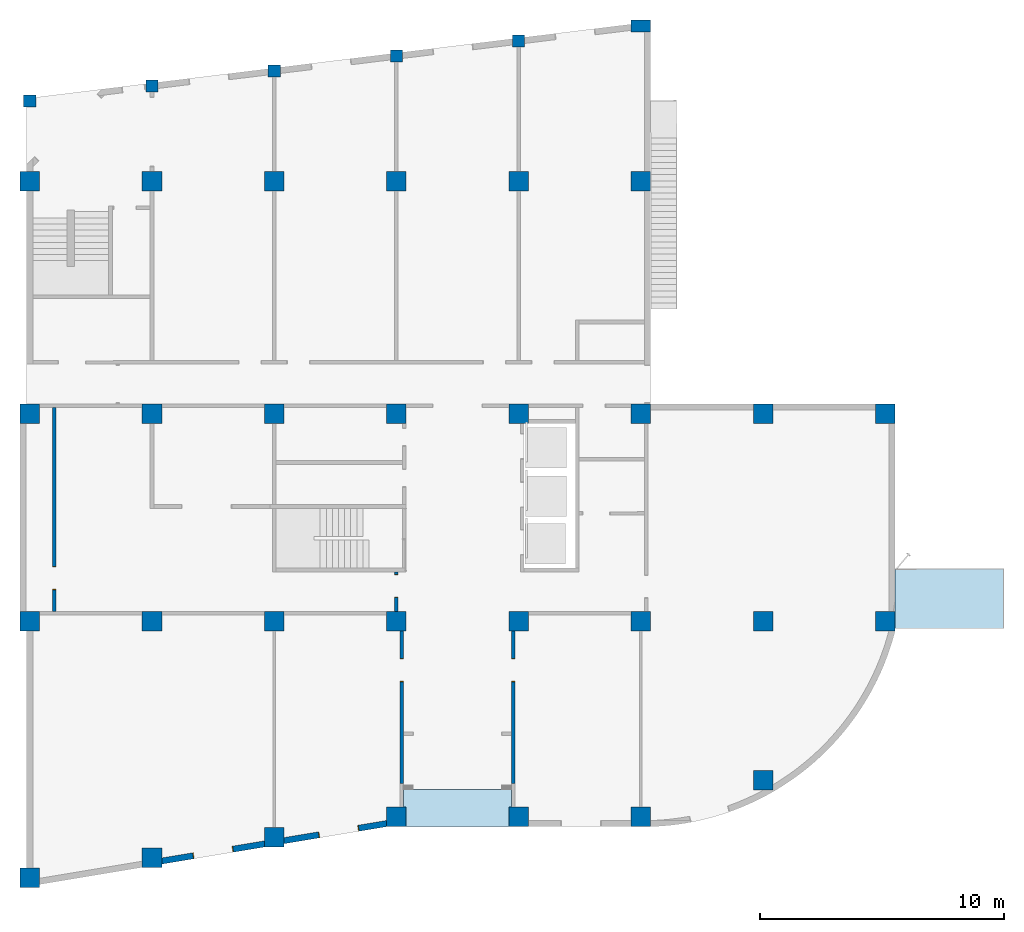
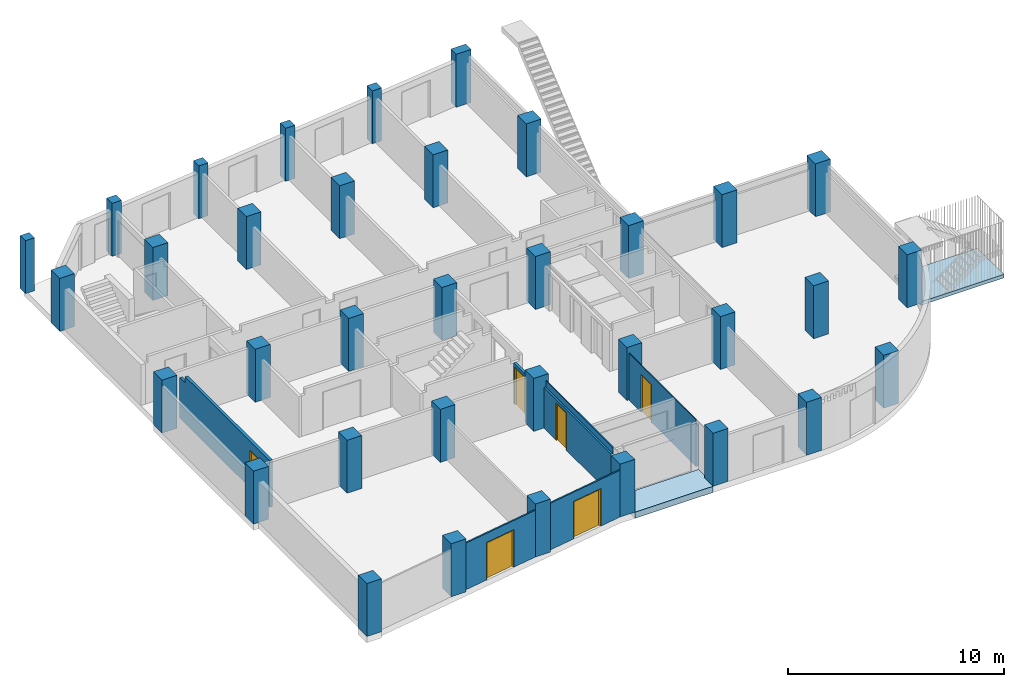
# One storey, part 1 of 9: 35 columns, 6 doors, 6 walls, 2 slabs, 6 openings.
"""IFC2X3 building model written with IfcOpenShell, lengths in millimetres."""

import ifcopenshell
import ifcopenshell.guid

model = None  # the IFC model being written
_history = None  # IfcOwnerHistory: only IFC2X3 demands one
_inside = {}  # id of a spatial element -> (the spatial element, [elements in it])
_under = {}  # id of a project, library or spatial element -> (it, [spatial elements below it])
_declared = {}  # id of a project -> (the project, [libraries it declares])
_typed = {}  # id of a type object -> (the type object, [elements of that type])
_made_of = {}  # id of a material, layer set ... -> (it, [elements and type objects made of it])


def new_model(schema):
    """Start an empty IFC model of exactly this schema.

    Asked for "IFC4X3", IfcOpenShell would pick the latest addendum, in which some entities
    have other attributes; the version numbers below select the first issue.
    IFC2X3 requires an IfcOwnerHistory on every rooted entity: one is made here for all.
    """
    global model, _history
    if schema == "IFC4X3":
        model = ifcopenshell.file(schema_version=(4, 3, 0, 0))
    else:
        model = ifcopenshell.file(schema=schema)
    _inside.clear()
    _under.clear()
    _declared.clear()
    _typed.clear()
    _made_of.clear()
    _history = None
    if model.schema == "IFC2X3":
        org = make("IfcOrganization", Name="unknown")
        user = make(
            "IfcPersonAndOrganization",
            ThePerson=make("IfcPerson", FamilyName="unknown"),
            TheOrganization=org,
        )
        app = make(
            "IfcApplication",
            ApplicationDeveloper=org,
            Version="unknown",
            ApplicationFullName="unknown",
            ApplicationIdentifier="unknown",
        )
        _history = make(
            "IfcOwnerHistory",
            OwningUser=user,
            OwningApplication=app,
            ChangeAction="ADDED",
            CreationDate=0,
        )
    return model


def make(cls, **values):
    """One entity of the class cls with the attributes given. An attribute that is None is left unset."""
    return model.create_entity(
        cls, **{name: value for name, value in values.items() if value is not None}
    )


def entity(cls, *values):
    """Any entity or typed value of the class cls, its attributes in the order of the schema. None: left unset."""
    e = model.create_entity(cls)
    for i, value in enumerate(values):
        if value is not None:
            e[i] = value
    return e


def rooted(cls, **values):
    """An entity with a GlobalId (a new one), such as an element, a storey or a relation."""
    return make(cls, GlobalId=ifcopenshell.guid.new(), OwnerHistory=_history, **values)


def si_unit(unit_type, name, prefix=None):
    """IfcSIUnit, for example si_unit("LENGTHUNIT", "METRE", prefix="MILLI")."""
    return make("IfcSIUnit", UnitType=unit_type, Prefix=prefix, Name=name)


def converted_unit(unit_type, name, factor, base, dimensions=None, offset=None):
    """IfcConversionBasedUnit, such as the inch: factor (a typed value) times the base unit."""
    return make(
        "IfcConversionBasedUnit"
        if offset is None
        else "IfcConversionBasedUnitWithOffset",
        ConversionOffset=offset,
        Dimensions=None
        if dimensions is None
        else entity("IfcDimensionalExponents", *dimensions),
        UnitType=unit_type,
        Name=name,
        ConversionFactor=make(
            "IfcMeasureWithUnit", ValueComponent=factor, UnitComponent=base
        ),
    )


def derived_unit(unit_type, elements):
    """IfcDerivedUnit: a product of units, each with its exponent."""
    return make(
        "IfcDerivedUnit",
        Elements=[
            make("IfcDerivedUnitElement", Unit=unit, Exponent=power)
            for unit, power in elements
        ],
        UnitType=unit_type,
    )


def money_unit(currency):
    """IfcMonetaryUnit."""
    return make("IfcMonetaryUnit", Currency=currency)


def assignment(units):
    """IfcUnitAssignment: the units of a project."""
    return None if units is None else make("IfcUnitAssignment", Units=units)


def point(xyz):
    """IfcCartesianPoint."""
    return None if xyz is None else make("IfcCartesianPoint", Coordinates=xyz)


def direction(xyz):
    """IfcDirection."""
    return None if xyz is None else make("IfcDirection", DirectionRatios=xyz)


def frame(location, z_axis=None, x_axis=None):
    """IfcAxis2Placement3D, a coordinate frame: its origin and axes. An axis left out is left unset."""
    return make(
        "IfcAxis2Placement3D",
        Location=point(location),
        Axis=direction(z_axis),
        RefDirection=direction(x_axis),
    )


def origin_with_axes():
    """The frame at (0, 0, 0) with the z axis (0, 0, 1) and the x axis (1, 0, 0) written out."""
    return frame((0.0, 0.0, 0.0), z_axis=(0.0, 0.0, 1.0), x_axis=(1.0, 0.0, 0.0))


def place(relative_to, where):
    """IfcLocalPlacement: puts the frame where relative to a parent placement (None: the world)."""
    return make(
        "IfcLocalPlacement", PlacementRelTo=relative_to, RelativePlacement=where
    )


def context(
    kind, dimensions, precision=None, world=None, true_north=None, identifier=None
):
    """IfcGeometricRepresentationContext, for example the 3D "Model" context."""
    return make(
        "IfcGeometricRepresentationContext",
        ContextIdentifier=identifier,
        ContextType=kind,
        CoordinateSpaceDimension=dimensions,
        Precision=precision,
        WorldCoordinateSystem=world,
        TrueNorth=true_north,
    )


def subcontext(parent, identifier, kind, view, scale=None):
    """IfcGeometricRepresentationSubContext, for example "Body" below "Model"."""
    return make(
        "IfcGeometricRepresentationSubContext",
        ContextIdentifier=identifier,
        ContextType=kind,
        ParentContext=parent,
        TargetScale=scale,
        TargetView=view,
    )


def project(units=None, contexts=None):
    """IfcProject with its units and contexts."""
    return rooted(
        "IfcProject",
        Name="project",
        RepresentationContexts=contexts,
        UnitsInContext=assignment(units),
    )


def spatial(cls, under=None, at=None, **own):
    """A site, building, storey or space (cls), placed at a placement, below another one or the project."""
    s = rooted(cls, ObjectPlacement=at, **own)
    if under is not None:
        _under.setdefault(under.id(), (under, []))[1].append(s)
    return s


def faces_of(points, faces, orient=None, outer=None):
    """IfcFace entities. A face is a list of loops; a loop is a list of indices into points, from 0.

    orient and outer hold one flag for each loop. By default every Orientation is true, the
    first loop of a face is its IfcFaceOuterBound and the others are IfcFaceBound.
    """
    made = []
    for i, loops in enumerate(faces):
        bounds = []
        for j, loop in enumerate(loops):
            is_outer = j == 0 if outer is None else outer[i][j]
            bounds.append(
                make(
                    "IfcFaceOuterBound" if is_outer else "IfcFaceBound",
                    Bound=make("IfcPolyLoop", Polygon=[points[k] for k in loop]),
                    Orientation=True if orient is None else orient[i][j],
                )
            )
        made.append(make("IfcFace", Bounds=bounds))
    return made


def open_shell(faces, orient=None, outer=None):
    """The faces of one IfcOpenShell. surface_model builds it on its shared points."""
    return ("IfcOpenShell", faces, orient, outer)


def faceted_brep(points, faces, orient=None, outer=None, voids=None):
    """IfcFacetedBrep: a solid bounded by flat faces; with voids (closed shells), ...WithVoids."""
    shared = [point(p) for p in points]
    hull = make("IfcClosedShell", CfsFaces=faces_of(shared, faces, orient, outer))
    if voids is None:
        return make("IfcFacetedBrep", Outer=hull)
    return make(
        "IfcFacetedBrepWithVoids",
        Outer=hull,
        Voids=[
            make(cls, CfsFaces=faces_of(shared, fs, o, b)) for cls, fs, o, b in voids
        ],
    )


def surface_model(cls, points, shells):
    """IfcFaceBasedSurfaceModel or IfcShellBasedSurfaceModel (cls): surfaces that need not close."""
    shared = [point(p) for p in points]
    made = [make(c, CfsFaces=faces_of(shared, fs, o, b)) for c, fs, o, b in shells]
    if cls == "IfcFaceBasedSurfaceModel":
        return make(cls, FbsmFaces=made)
    return make(cls, SbsmBoundary=made)


def shape(context_of_items, identifier, shape_type, items):
    """IfcShapeRepresentation: the items that make up one representation, for example the "Body"."""
    return make(
        "IfcShapeRepresentation",
        ContextOfItems=context_of_items,
        RepresentationIdentifier=identifier,
        RepresentationType=shape_type,
        Items=items,
    )


def source(mapping_origin, context_of_items, identifier, shape_type, items):
    """IfcRepresentationMap: a shape defined once, which mapped items show again and again."""
    return make(
        "IfcRepresentationMap",
        MappingOrigin=mapping_origin,
        MappedRepresentation=shape(context_of_items, identifier, shape_type, items),
    )


def transform(
    local_origin,
    x_axis=None,
    y_axis=None,
    z_axis=None,
    scale=None,
    scale2=None,
    scale3=None,
    uniform=True,
):
    """IfcCartesianTransformationOperator3D, or its non-uniform kind. x_axis, y_axis, z_axis: its Axis1, 2, 3."""
    if uniform:
        return make(
            "IfcCartesianTransformationOperator3D",
            Axis1=direction(x_axis),
            Axis2=direction(y_axis),
            LocalOrigin=point(local_origin),
            Scale=scale,
            Axis3=direction(z_axis),
        )
    return make(
        "IfcCartesianTransformationOperator3DnonUniform",
        Axis1=direction(x_axis),
        Axis2=direction(y_axis),
        LocalOrigin=point(local_origin),
        Scale=scale,
        Axis3=direction(z_axis),
        Scale2=scale2,
        Scale3=scale3,
    )


def mapped(mapping_source, mapping_target):
    """IfcMappedItem: shows the shape of a source again, moved by a transform."""
    return make(
        "IfcMappedItem", MappingSource=mapping_source, MappingTarget=mapping_target
    )


def material(Name=None, Category=None):
    """IfcMaterial."""
    return make("IfcMaterial", Name=Name, Category=Category)


def made_of(thing, what):
    """Note that an element or type object is made of a material, layer set ...; save() writes the relation."""
    if what is not None:
        _made_of.setdefault(what.id(), (what, []))[1].append(thing)
    return thing


def type_object(cls, material=None, **own):
    """A type object (cls), such as IfcWallType, which elements share."""
    return made_of(rooted(cls, **own), material)


def element(
    cls,
    number,
    at=None,
    inside=None,
    cuts=None,
    type_object=None,
    material=None,
    context=None,
    identifier="Body",
    shape_type=None,
    held_by="IfcProductDefinitionShape",
    body=None,
    shapes=None,
    **own,
):
    """One element of the class cls, such as IfcWall. Its Tag is "e" and its number.

    at: its placement. inside: the storey or other place that contains it. cuts: it is an
    opening in that element (IfcRelVoidsElement). A single representation is given by context,
    identifier, shape_type and body (its items); several are given by shapes. held_by: the class
    of the entity that holds the representations. save() writes the other relations.
    """
    e = rooted(cls, Tag="e%d" % number, ObjectPlacement=at, **own)
    if body is not None:
        shapes = [shape(context, identifier, shape_type, body)]
    if shapes is not None:
        e.Representation = make(held_by, Representations=shapes)
    if inside is not None:
        _inside.setdefault(inside.id(), (inside, []))[1].append(e)
    if cuts is not None:
        rooted(
            "IfcRelVoidsElement", RelatingBuildingElement=cuts, RelatedOpeningElement=e
        )
    if type_object is not None:
        _typed.setdefault(type_object.id(), (type_object, []))[1].append(e)
    return made_of(e, material)


def fill(opening, filler):
    """IfcRelFillsElement: the door or window that sits in an opening."""
    return rooted(
        "IfcRelFillsElement",
        RelatingOpeningElement=opening,
        RelatedBuildingElement=filler,
    )


def aggregate(whole, parts):
    """IfcRelAggregates: a whole, such as a stair, and the parts it consists of."""
    return rooted("IfcRelAggregates", RelatingObject=whole, RelatedObjects=parts)


def save(model, path):
    """Write the relations noted so far, then the file.

    IfcRelAggregates (storeys below a building ...), IfcRelContainedInSpatialStructure (elements
    in a storey), IfcRelDefinesByType, IfcRelAssociatesMaterial and IfcRelDeclares: one each for
    every whole, place, type object, material and project.
    """
    for whole, parts in _under.values():
        aggregate(whole, parts)
    for where, things in _inside.values():
        rooted(
            "IfcRelContainedInSpatialStructure",
            RelatedElements=things,
            RelatingStructure=where,
        )
    for kind, things in _typed.values():
        rooted("IfcRelDefinesByType", RelatedObjects=things, RelatingType=kind)
    for what, things in _made_of.values():
        rooted("IfcRelAssociatesMaterial", RelatedObjects=things, RelatingMaterial=what)
    for by, libraries in _declared.values():
        rooted("IfcRelDeclares", RelatingContext=by, RelatedDefinitions=libraries)
    model.write(path)


model = new_model("IFC2X3")

# Units and contexts
model_context = context("Model", 3, precision=0.01, world=origin_with_axes(), true_north=direction((0.0, 1.0)))
body_context = subcontext(model_context, "Body", "Model", "MODEL_VIEW")
ifc_project = project(units=[si_unit("LENGTHUNIT", "METRE", prefix="MILLI"), si_unit("AREAUNIT", "SQUARE_METRE"), si_unit("VOLUMEUNIT", "CUBIC_METRE"), converted_unit("PLANEANGLEUNIT", "DEGREE", entity("IfcPlaneAngleMeasure", 0.0174532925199), si_unit("PLANEANGLEUNIT", "RADIAN"), dimensions=[0, 0, 0, 0, 0, 0, 0]), si_unit("SOLIDANGLEUNIT", "STERADIAN"), money_unit("JPY"), converted_unit("TIMEUNIT", "Year", entity("IfcTimeMeasure", 31556926.0), si_unit("TIMEUNIT", "SECOND"), dimensions=[0, 0, 1, 0, 0, 0, 0]), si_unit("MASSUNIT", "GRAM", prefix="KILO"), si_unit("THERMODYNAMICTEMPERATUREUNIT", "DEGREE_CELSIUS"), si_unit("LUMINOUSINTENSITYUNIT", "LUMEN"), si_unit("ENERGYUNIT", "JOULE", prefix="MEGA"), derived_unit("THERMALCONDUCTANCEUNIT", [(si_unit("POWERUNIT", "WATT"), 1), (si_unit("LENGTHUNIT", "METRE"), -1), (si_unit("THERMODYNAMICTEMPERATUREUNIT", "KELVIN"), -1)]), derived_unit("SPECIFICHEATCAPACITYUNIT", [(si_unit("ENERGYUNIT", "JOULE"), 1), (si_unit("MASSUNIT", "GRAM", prefix="KILO"), -1), (si_unit("THERMODYNAMICTEMPERATUREUNIT", "KELVIN"), -1)]), derived_unit("MASSDENSITYUNIT", [(si_unit("MASSUNIT", "GRAM", prefix="KILO"), 1), (si_unit("VOLUMEUNIT", "CUBIC_METRE"), -1)])], contexts=[model_context])

# Site, building, storey
site_placement = place(None, origin_with_axes())
site = spatial("IfcSite", under=ifc_project, at=site_placement, Name="サイト", CompositionType="ELEMENT")
building_placement = place(site_placement, origin_with_axes())
building = spatial("IfcBuilding", under=site, at=building_placement, Name="建築", CompositionType="ELEMENT")
storey_placement = place(building_placement, origin_with_axes())
storey = spatial("IfcBuildingStorey", under=building, at=storey_placement, Name="1FL", CompositionType="ELEMENT", Elevation=0.0)

# Columns
ifc_material = material(Name="コンクリート")
column_type_1 = type_object("IfcColumnType", Name="コンクリート 800 x 800", PredefinedType="NOTDEFINED")
for number, where, z_axis, x_axis, name in (
    (1, (0.0, 0.0, 0.0), (0.0, 0.0, 1.0), (1.0, 0.0, 0.0), "C1"),
    (2, (5000.0, 0.0, 0.0), (0.0, 0.0, 1.0), (1.0, 0.0, 0.0), "C1"),
    (3, (10000.0, 0.0, 0.0), (0.0, 0.0, 1.0), (1.0, 0.0, 0.0), "C1"),
    (4, (15000.0, 0.0, 0.0), (0.0, 0.0, 1.0), (1.0, 0.0, 0.0), "C1"),
    (5, (20000.0, 0.0, 0.0), (0.0, 0.0, 1.0), (1.0, 0.0, 0.0), "C1"),
    (6, (25000.0, 0.0, 0.0), (0.0, 0.0, 1.0), (1.0, 0.0, 0.0), "C1"),
    (7, (30000.0, 0.0, 0.0), (0.0, 0.0, 1.0), (1.0, 0.0, 0.0), "C1"),
    (8, (35000.0, 0.0, 0.0), (0.0, 0.0, 1.0), (1.0, 0.0, 0.0), "C1"),
    (9, (35000.0, 8500.0, 0.0), (0.0, 0.0, 1.0), (1.0, 0.0, 0.0), "C1"),
    (10, (30000.0, 8500.0, 0.0), (0.0, 0.0, 1.0), (1.0, 0.0, 0.0), "C1"),
    (11, (25000.0, 8500.0, 0.0), (0.0, 0.0, 1.0), (1.0, 0.0, 0.0), "C1"),
    (12, (20000.0, 8500.0, 0.0), (0.0, 0.0, 1.0), (1.0, 0.0, 0.0), "C1"),
    (13, (15000.0, 8500.0, 0.0), (0.0, 0.0, 1.0), (1.0, 0.0, 0.0), "C1"),
    (14, (10000.0, 8500.0, 0.0), (0.0, 0.0, 1.0), (1.0, 0.0, 0.0), "C1"),
    (15, (5000.0, 8500.0, 0.0), (0.0, 0.0, 1.0), (1.0, 0.0, 0.0), "C1"),
    (16, (0.0, 8500.0, 0.0), (0.0, 0.0, 1.0), (1.0, 0.0, 0.0), "C1"),
    (17, (0.0, -10500.0, 0.0), (0.0, 0.0, 1.0), (1.0, 0.0, 0.0), "C1"),
    (18, (5000.0, -9666.66666667, 0.0), (0.0, 0.0, 1.0), (1.0, 0.0, 0.0), "C1"),
    (19, (10000.0, -8833.33333333, 0.0), (0.0, 0.0, 1.0), (1.0, 0.0, 0.0), "C1"),
    (20, (15000.0, -8000.0, 0.0), (0.0, 0.0, 1.0), (1.0, 0.0, 0.0), "C1"),
    (21, (20000.0, -8000.0, 0.0), (0.0, 0.0, 1.0), (1.0, 0.0, 0.0), "C1"),
    (22, (25000.0, -8000.0, 0.0), (0.0, 0.0, 1.0), (1.0, 0.0, 0.0), "C1"),
    (23, (25000.0, 18000.0, 0.0), (0.0, 0.0, 1.0), (1.0, 0.0, 0.0), "C1"),
    (24, (20000.0, 18000.0, 0.0), (0.0, 0.0, 1.0), (1.0, 0.0, 0.0), "C1"),
    (25, (15000.0, 18000.0, 0.0), (0.0, 0.0, 1.0), (1.0, 0.0, 0.0), "C1"),
    (26, (10000.0, 18000.0, 0.0), (0.0, 0.0, 1.0), (1.0, 0.0, 0.0), "C1"),
    (27, (5000.0, 18000.0, 0.0), (0.0, 0.0, 1.0), (1.0, 0.0, 0.0), "C1"),
    (28, (0.0, 18000.0, 0.0), (0.0, 0.0, 1.0), (1.0, 0.0, 0.0), "C1"),
    (29, (30000.0, -6500.0, 0.0), (0.0, 0.0, 1.0), (1.0, 0.0, 0.0), "C1"),
):
    element("IfcColumn", number, at=place(storey_placement, frame(where, z_axis=z_axis, x_axis=x_axis)), inside=storey, type_object=column_type_1, material=ifc_material, Name=name, context=body_context, shape_type="Brep", body=[
        faceted_brep([(-400.0, -400.0, 3000.0), (-400.0, -400.0, 0.0), (400.0, -400.0, 0.0), (400.0, -400.0, 3000.0), (-400.0, 400.0, 3000.0), (-400.0, 400.0, 0.0), (400.0, 400.0, 0.0), (400.0, 400.0, 3000.0)], [[[0, 1, 2, 3]], [[4, 5, 1, 0]], [[2, 1, 5, 6]], [[3, 2, 6, 7]], [[4, 0, 3, 7]], [[7, 6, 5, 4]]]),
    ])
column_type_2 = type_object("IfcColumnType", Name="コンクリート 800 x 500", PredefinedType="NOTDEFINED")
column_placement = place(storey_placement, frame((25000.0, 24352.6436992, 0.0), z_axis=(0.0, 0.0, 1.0), x_axis=(1.0, 0.0, 0.0)))
element("IfcColumn", 30, at=column_placement, inside=storey, type_object=column_type_2, material=ifc_material, Name="C3", context=body_context, shape_type="Brep", body=[
    faceted_brep([(-400.0, -250.0, 3000.0), (-400.0, -250.0, 0.0), (400.0, -250.0, 0.0), (400.0, -250.0, 3000.0), (-400.0, 250.0, 3000.0), (-400.0, 250.0, 0.0), (400.0, 250.0, 0.0), (400.0, 250.0, 3000.0)], [[[0, 1, 2, 3]], [[4, 5, 1, 0]], [[2, 1, 5, 6]], [[3, 2, 6, 7]], [[4, 0, 3, 7]], [[7, 6, 5, 4]]]),
])
column_type_3 = type_object("IfcColumnType", Name="コンクリート 500 x 500", PredefinedType="NOTDEFINED")
for number, where, z_axis, x_axis, name in (
    (31, (20000.0, 23738.7208947, 0.0), (0.0, 0.0, 1.0), (1.0, 0.0, 0.0), "C2"),
    (32, (15000.0, 23124.7980902, 0.0), (0.0, 0.0, 1.0), (1.0, 0.0, 0.0), "C2"),
    (33, (10000.0, 22510.8752856, 0.0), (0.0, 0.0, 1.0), (1.0, 0.0, 0.0), "C2"),
    (34, (5000.0, 21896.9524811, 0.0), (0.0, 0.0, 1.0), (1.0, 0.0, 0.0), "C2"),
    (35, (0.0, 21283.0296766, 0.0), (0.0, 0.0, 1.0), (1.0, 0.0, 0.0), "C2"),
):
    element("IfcColumn", number, at=place(storey_placement, frame(where, z_axis=z_axis, x_axis=x_axis)), inside=storey, type_object=column_type_3, material=ifc_material, Name=name, context=body_context, shape_type="Brep", body=[
        faceted_brep([(-250.0, -250.0, 3000.0), (-250.0, -250.0, 0.0), (250.0, -250.0, 0.0), (250.0, -250.0, 3000.0), (-250.0, 250.0, 3000.0), (-250.0, 250.0, 0.0), (250.0, 250.0, 0.0), (250.0, 250.0, 3000.0)], [[[0, 1, 2, 3]], [[4, 5, 1, 0]], [[2, 1, 5, 6]], [[3, 2, 6, 7]], [[4, 0, 3, 7]], [[7, 6, 5, 4]]]),
    ])

# Slabs
slab_type_1 = type_object("IfcSlabType", Name="コンクリート 350", PredefinedType="FLOOR")
slab_1_placement = place(storey_placement, frame((15299.9999475, -6875.0, 0.0), z_axis=(0.0, 0.0, 1.0), x_axis=(1.0, 0.0, 0.0)))
element("IfcSlab", 36, at=slab_1_placement, inside=storey, type_object=slab_type_1, material=ifc_material, Name="S3", PredefinedType="FLOOR", context=body_context, shape_type="Brep", body=[
    faceted_brep([(-2.75485803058e-05, -724.999969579, 0.0), (0.0, 0.0, 0.0), (0.0, 0.0, -350.0), (-2.75485803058e-05, -724.999969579, -350.0), (4400.00012973, -725.000006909, 0.0), (4400.0001044, 0.0, 0.0), (100.000052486, -725.0, 0.0), (100.000052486, -1525.0, 0.0), (4300.00005249, -1525.0, 0.0), (4300.00005249, -725.0, 0.0), (4400.0001044, 0.0, -350.0), (100.000052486, -725.0, -350.0), (4400.00012973, -725.000006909, -350.0), (4300.00005249, -725.0, -350.0), (4300.00005249, -1525.0, -350.0), (100.000052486, -1525.0, -350.0)], [[[0, 1, 2, 3]], [[4, 5, 1, 0, 6, 7, 8, 9]], [[1, 5, 10, 2]], [[11, 3, 2, 10, 12, 13, 14, 15]], [[6, 0, 3, 11]], [[5, 4, 12, 10]], [[7, 6, 11, 15]], [[8, 7, 15, 14]], [[9, 8, 14, 13]], [[4, 9, 13, 12]]]),
])
slab_type_2 = type_object("IfcSlabType", Name="コンクリート 200", PredefinedType="FLOOR")
slab_2_placement = place(storey_placement, frame((35399.9999654, -300.0, 0.0), z_axis=(0.0, 0.0, 1.0), x_axis=(1.0, 0.0, 0.0)))
element("IfcSlab", 37, at=slab_2_placement, inside=storey, type_object=slab_type_2, material=ifc_material, Name="S3", PredefinedType="FLOOR", context=body_context, shape_type="Brep", body=[
    faceted_brep([(4450.00001125, 0.0, 0.0), (0.0, 0.0, 0.0), (0.0, 0.0, -200.0), (4450.00001125, 0.0, -200.0), (4450.00001125, 2453.66927384, 0.0), (0.0, 2453.66927384, 0.0), (0.0, 2453.66927384, -200.0), (4450.00001125, 2453.66927384, -200.0)], [[[0, 1, 2, 3]], [[4, 5, 1, 0]], [[1, 5, 6, 2]], [[7, 3, 2, 6]], [[4, 0, 3, 7]], [[5, 4, 7, 6]]]),
])

# Wall, opening, door
wall_type_1 = type_object("IfcWallType", Name="コンクリート 150", PredefinedType="NOTDEFINED")
wall_1_placement = place(storey_placement, frame((15224.9999475, 324.999998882, 0.0), z_axis=(0.0, 0.0, 1.0), x_axis=(0.0, -1.0, 0.0)))
wall_1 = element("IfcWall", 38, at=wall_1_placement, inside=storey, type_object=wall_type_1, material=ifc_material, Name="W4", context=body_context, shape_type="Brep", body=[
    faceted_brep([(2805.00004232, 75.0, 0.0), (2805.00004232, 75.0, 2130.0), (1845.00004232, 75.0, 2130.0), (1845.00004232, 75.0, 0.0), (724.999998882, 75.0, 0.0), (724.999998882, 75.0, 2650.0), (1199.99999888, 75.0, 2650.0), (4849.99999888, 75.0, 2650.0), (6949.99999888, 75.0, 2650.0), (6949.99999888, 75.0, 0.0), (2805.00004232, -75.0, 0.0), (2805.00004232, -75.0, 2130.0), (1845.00004232, -75.0, 2130.0), (1845.00004232, -75.0, 0.0), (724.999998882, -75.0, 0.0), (724.999998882, -75.0, 2300.0), (724.999998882, 25.0000524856, 2300.0), (724.999998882, 25.0000524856, 2650.0), (6949.99999888, 25.0000524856, 2650.0), (6949.99999888, -75.0, 2300.0), (6949.99999888, -75.0, 0.0), (6949.99999888, 25.0000524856, 2300.0)], [[[0, 1, 2, 3, 4, 5, 6, 7, 8, 9]], [[1, 0, 10, 11]], [[2, 1, 11, 12]], [[3, 2, 12, 13]], [[3, 13, 14, 4]], [[4, 14, 15, 16, 17, 5]], [[18, 8, 7, 6, 5, 17]], [[19, 20, 9, 8, 18, 21]], [[10, 0, 9, 20]], [[11, 10, 20, 19, 15, 14, 13, 12]], [[16, 15, 19, 21]], [[17, 16, 21, 18]]]),
])
opening_1_placement = place(wall_1_placement, frame((2325.00004232, 0.0, 0.0), z_axis=(0.0, 0.0, 1.0), x_axis=(1.0, 0.0, 0.0)))
opening_1 = element("IfcOpeningElement", 39, at=opening_1_placement, cuts=wall_1, Name="SD3", context=body_context, shape_type="Brep", body=[
    faceted_brep([(480.0, 160.0, 0.0), (480.0, 160.0, 2130.0), (480.0, -160.0, 2130.0), (480.0, -160.0, 0.0), (-480.0, 160.0, 0.0), (-480.0, 160.0, 2130.0), (-480.0, -160.0, 2130.0), (-480.0, -160.0, 0.0)], [[[0, 1, 2, 3]], [[0, 4, 5, 1]], [[1, 5, 6, 2]], [[3, 2, 6, 7]], [[4, 0, 3, 7]], [[5, 4, 7, 6]]]),
])
door_style_1 = type_object("IfcDoorStyle", Name="片開き戸", ConstructionType="NOTDEFINED", OperationType="NOTDEFINED", ParameterTakesPrecedence=False, Sizeable=False)
shared_shape_1 = source(origin_with_axes(), body_context, "Body", "SurfaceModel", [
    surface_model("IfcShellBasedSurfaceModel", [(450.0, -85.0, 0.0), (-450.0, -85.0, 0.0), (-450.0, -85.0, 2100.0), (450.0, -85.0, 2100.0)], [open_shell([[[0, 1, 2, 3]]])]),
    surface_model("IfcShellBasedSurfaceModel", [(480.0, -10.0, 0.0), (450.0, -10.0, 0.0), (450.0, -10.0, 2100.0), (-450.0, -10.0, 2100.0), (-450.0, -10.0, 0.0), (-480.0, -10.0, 0.0), (-480.0, -10.0, 2130.0), (480.0, -10.0, 2130.0)], [open_shell([[[0, 1, 2, 3, 4, 5, 6, 7]]])]),
    surface_model("IfcShellBasedSurfaceModel", [(480.0, -160.0, 0.0), (450.0, -160.0, 0.0), (450.0, -160.0, 2100.0), (-450.0, -160.0, 2100.0), (-450.0, -160.0, 0.0), (-480.0, -160.0, 0.0), (-480.0, -160.0, 2130.0), (480.0, -160.0, 2130.0)], [open_shell([[[0, 1, 2, 3, 4, 5, 6, 7]]])]),
    surface_model("IfcShellBasedSurfaceModel", [(450.0, -10.0, 0.0), (450.0, -160.0, 0.0), (450.0, -160.0, 2100.0), (450.0, -10.0, 2100.0), (480.0, -10.0, 0.0), (480.0, -160.0, 0.0), (-450.0, -160.0, 2100.0), (-450.0, -10.0, 2100.0), (480.0, -10.0, 2130.0), (480.0, -160.0, 2130.0), (-450.0, -160.0, 0.0), (-450.0, -10.0, 0.0), (-480.0, -10.0, 2130.0), (-480.0, -160.0, 2130.0), (-480.0, -160.0, 0.0), (-480.0, -10.0, 0.0)], [open_shell([[[0, 1, 2, 3]], [[4, 5, 1, 0]], [[3, 2, 6, 7]], [[8, 9, 5, 4]], [[7, 6, 10, 11]], [[12, 13, 9, 8]], [[11, 10, 14, 15]], [[15, 14, 13, 12]]])]),
])
door_1_placement = place(opening_1_placement, frame((-450.0, 0.0, 0.0), z_axis=(0.0, 0.0, 1.0), x_axis=(1.0, 0.0, 0.0)))
door_1 = element("IfcDoor", 40, at=door_1_placement, inside=storey, type_object=door_style_1, Name="SD3", OverallHeight=2165.0, OverallWidth=1030.0, context=body_context, shape_type="MappedRepresentation", body=[
    mapped(shared_shape_1, transform((450.0, 85.0, 0.0))),
])
fill(opening_1, door_1)

wall_2_placement = place(storey_placement, frame((19775.0000519, 325.000021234, 0.0), z_axis=(0.0, 0.0, 1.0), x_axis=(0.0, -1.0, 0.0)))
wall_2 = element("IfcWall", 41, at=wall_2_placement, inside=storey, type_object=wall_type_1, material=ifc_material, Name="W5", context=body_context, shape_type="Brep", body=[
    faceted_brep([(2805.00006467, 75.0, 0.0), (2805.00006467, 75.0, 2130.0), (1845.00006467, 75.0, 2130.0), (1845.00006467, 75.0, 0.0), (725.000021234, 75.0, 0.0), (725.000021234, 75.0, 2300.0), (6950.00002123, 75.0, 2300.0), (6950.00002123, 75.0, 0.0), (2805.00006467, -75.0, 0.0), (2805.00006467, -75.0, 2130.0), (1845.00006467, -75.0, 2130.0), (1845.00006467, -75.0, 0.0), (725.000021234, -75.0, 0.0), (725.000021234, -75.0, 2650.0), (725.000021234, -25.0000519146, 2650.0), (725.000021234, -25.0000519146, 2300.0), (6950.00002123, -25.0000519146, 2300.0), (6950.00002123, -25.0000519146, 2650.0), (6950.00002123, -75.0, 2650.0), (6950.00002123, -75.0, 0.0), (4850.00002123, -75.0, 2650.0), (1200.00002123, -75.0, 2650.0)], [[[0, 1, 2, 3, 4, 5, 6, 7]], [[1, 0, 8, 9]], [[2, 1, 9, 10]], [[3, 2, 10, 11]], [[3, 11, 12, 4]], [[4, 12, 13, 14, 15, 5]], [[5, 15, 16, 6]], [[17, 18, 19, 7, 6, 16]], [[8, 0, 7, 19]], [[9, 8, 19, 18, 20, 21, 13, 12, 11, 10]], [[21, 20, 18, 17, 14, 13]], [[15, 14, 17, 16]]]),
])
opening_2_placement = place(wall_2_placement, frame((2325.00006467, 0.0, 0.0), z_axis=(0.0, 0.0, 1.0), x_axis=(1.0, 0.0, 0.0)))
opening_2 = element("IfcOpeningElement", 42, at=opening_2_placement, cuts=wall_2, Name="SD3", context=body_context, shape_type="Brep", body=[
    faceted_brep([(480.0, 160.0, 0.0), (480.0, 160.0, 2130.0), (480.0, -160.0, 2130.0), (480.0, -160.0, 0.0), (-480.0, 160.0, 0.0), (-480.0, 160.0, 2130.0), (-480.0, -160.0, 2130.0), (-480.0, -160.0, 0.0)], [[[0, 1, 2, 3]], [[0, 4, 5, 1]], [[1, 5, 6, 2]], [[3, 2, 6, 7]], [[4, 0, 3, 7]], [[5, 4, 7, 6]]]),
])
shared_shape_2 = source(origin_with_axes(), body_context, "Body", "SurfaceModel", [
    surface_model("IfcShellBasedSurfaceModel", [(-450.0, 85.0, 0.0), (-450.0, 85.0, 2100.0), (450.0, 85.0, 2100.0), (450.0, 85.0, 0.0)], [open_shell([[[0, 1, 2, 3]]])]),
    surface_model("IfcShellBasedSurfaceModel", [(-480.0, 160.0, 0.0), (-480.0, 160.0, 2130.0), (480.0, 160.0, 2130.0), (480.0, 160.0, 0.0), (450.0, 160.0, 0.0), (450.0, 160.0, 2100.0), (-450.0, 160.0, 2100.0), (-450.0, 160.0, 0.0)], [open_shell([[[0, 1, 2, 3, 4, 5, 6, 7]]])]),
    surface_model("IfcShellBasedSurfaceModel", [(-480.0, 10.0, 0.0), (-480.0, 10.0, 2130.0), (480.0, 10.0, 2130.0), (480.0, 10.0, 0.0), (450.0, 10.0, 0.0), (450.0, 10.0, 2100.0), (-450.0, 10.0, 2100.0), (-450.0, 10.0, 0.0)], [open_shell([[[0, 1, 2, 3, 4, 5, 6, 7]]])]),
    surface_model("IfcShellBasedSurfaceModel", [(-450.0, 160.0, 0.0), (-450.0, 160.0, 2100.0), (-450.0, 10.0, 2100.0), (-450.0, 10.0, 0.0), (450.0, 160.0, 2100.0), (450.0, 10.0, 2100.0), (-480.0, 160.0, 0.0), (-480.0, 10.0, 0.0), (450.0, 160.0, 0.0), (450.0, 10.0, 0.0), (-480.0, 160.0, 2130.0), (-480.0, 10.0, 2130.0), (480.0, 160.0, 0.0), (480.0, 10.0, 0.0), (480.0, 160.0, 2130.0), (480.0, 10.0, 2130.0)], [open_shell([[[0, 1, 2, 3]], [[1, 4, 5, 2]], [[6, 0, 3, 7]], [[4, 8, 9, 5]], [[10, 6, 7, 11]], [[8, 12, 13, 9]], [[14, 10, 11, 15]], [[12, 14, 15, 13]]])]),
])
door_2_placement = place(opening_2_placement, frame((450.0, 0.0, 0.0), z_axis=(0.0, 0.0, 1.0), x_axis=(-1.0, 0.0, 0.0)))
door_2 = element("IfcDoor", 43, at=door_2_placement, inside=storey, type_object=door_style_1, Name="SD3", OverallHeight=2165.0, OverallWidth=1030.0, context=body_context, shape_type="MappedRepresentation", body=[
    mapped(shared_shape_2, transform((450.0, -85.0, 0.0))),
])
fill(opening_2, door_2)

wall_3_placement = place(storey_placement, frame((15000.0, 324.999998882, 0.0), z_axis=(0.0, 0.0, 1.0), x_axis=(0.0, 1.0, 0.0)))
wall_3 = element("IfcWall", 44, at=wall_3_placement, inside=storey, type_object=wall_type_1, material=ifc_material, Name="W4", context=body_context, shape_type="Brep", body=[
    faceted_brep([(640.000001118, -75.0, 0.0), (640.000001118, -75.0, 2130.0), (1600.00000112, -75.0, 2130.0), (1600.00000112, -75.0, 0.0), (1700.00000112, -75.0, 0.0), (1700.00000112, -75.0, 2300.0), (75.0, -75.0, 2300.0), (75.0, -75.0, 0.0), (640.000001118, 75.0, 0.0), (640.000001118, 75.0, 2130.0), (1600.00000112, 75.0, 2130.0), (1600.00000112, 75.0, 0.0), (1700.00000112, 75.0, 0.0), (1700.00000112, 75.0, 2300.0), (75.0, 75.0, 2300.0), (75.0, 75.0, 0.0)], [[[0, 1, 2, 3, 4, 5, 6, 7]], [[1, 0, 8, 9]], [[2, 1, 9, 10]], [[3, 2, 10, 11]], [[3, 11, 12, 4]], [[12, 13, 5, 4]], [[14, 6, 5, 13]], [[7, 6, 14, 15]], [[8, 0, 7, 15]], [[9, 8, 15, 14, 13, 12, 11, 10]]]),
])
opening_3_placement = place(wall_3_placement, frame((1120.00000112, 0.0, 0.0), z_axis=(0.0, 0.0, 1.0), x_axis=(1.0, 0.0, 0.0)))
opening_3 = element("IfcOpeningElement", 45, at=opening_3_placement, cuts=wall_3, Name="SD3", context=body_context, shape_type="Brep", body=[
    faceted_brep([(-480.0, -160.0, 0.0), (-480.0, -160.0, 2130.0), (-480.0, 160.0, 2130.0), (-480.0, 160.0, 0.0), (480.0, -160.0, 0.0), (480.0, -160.0, 2130.0), (480.0, 160.0, 2130.0), (480.0, 160.0, 0.0)], [[[0, 1, 2, 3]], [[0, 4, 5, 1]], [[1, 5, 6, 2]], [[3, 2, 6, 7]], [[4, 0, 3, 7]], [[5, 4, 7, 6]]]),
])
shared_shape_3 = source(origin_with_axes(), body_context, "Body", "SurfaceModel", [
    surface_model("IfcShellBasedSurfaceModel", [(-450.0, -85.0, 0.0), (-450.0, -85.0, 2100.0), (450.0, -85.0, 2100.0), (450.0, -85.0, 0.0)], [open_shell([[[0, 1, 2, 3]]])]),
    surface_model("IfcShellBasedSurfaceModel", [(-480.0, -10.0, 0.0), (-480.0, -10.0, 2130.0), (480.0, -10.0, 2130.0), (480.0, -10.0, 0.0), (450.0, -10.0, 0.0), (450.0, -10.0, 2100.0), (-450.0, -10.0, 2100.0), (-450.0, -10.0, 0.0)], [open_shell([[[0, 1, 2, 3, 4, 5, 6, 7]]])]),
    surface_model("IfcShellBasedSurfaceModel", [(-480.0, -160.0, 0.0), (-480.0, -160.0, 2130.0), (480.0, -160.0, 2130.0), (480.0, -160.0, 0.0), (450.0, -160.0, 0.0), (450.0, -160.0, 2100.0), (-450.0, -160.0, 2100.0), (-450.0, -160.0, 0.0)], [open_shell([[[0, 1, 2, 3, 4, 5, 6, 7]]])]),
    surface_model("IfcShellBasedSurfaceModel", [(-450.0, -10.0, 0.0), (-450.0, -10.0, 2100.0), (-450.0, -160.0, 2100.0), (-450.0, -160.0, 0.0), (450.0, -10.0, 2100.0), (450.0, -160.0, 2100.0), (-480.0, -10.0, 0.0), (-480.0, -160.0, 0.0), (450.0, -10.0, 0.0), (450.0, -160.0, 0.0), (-480.0, -10.0, 2130.0), (-480.0, -160.0, 2130.0), (480.0, -10.0, 0.0), (480.0, -160.0, 0.0), (480.0, -10.0, 2130.0), (480.0, -160.0, 2130.0)], [open_shell([[[0, 1, 2, 3]], [[1, 4, 5, 2]], [[6, 0, 3, 7]], [[4, 8, 9, 5]], [[10, 6, 7, 11]], [[8, 12, 13, 9]], [[14, 10, 11, 15]], [[12, 14, 15, 13]]])]),
])
door_3_placement = place(opening_3_placement, frame((-450.0, 0.0, 0.0), z_axis=(0.0, 0.0, 1.0), x_axis=(1.0, 0.0, 0.0)))
door_3 = element("IfcDoor", 46, at=door_3_placement, inside=storey, type_object=door_style_1, Name="SD3", OverallHeight=2165.0, OverallWidth=1030.0, context=body_context, shape_type="MappedRepresentation", body=[
    mapped(shared_shape_3, transform((450.0, 85.0, 0.0))),
])
fill(opening_3, door_3)

wall_4_placement = place(storey_placement, frame((1000.0, 8825.000045, 0.0), z_axis=(0.0, 0.0, 1.0), x_axis=(0.0, -1.0, 0.0)))
wall_4 = element("IfcWall", 47, at=wall_4_placement, inside=storey, type_object=wall_type_1, material=ifc_material, Name="W0", context=body_context, shape_type="Brep", body=[
    faceted_brep([(7540.00004612, 75.0, 0.0), (7540.00004612, 75.0, 2130.0), (6580.00004612, 75.0, 2130.0), (6580.00004612, 75.0, 0.0), (75.0, 75.0, 0.0), (75.000044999, 75.0, 2300.0), (575.000044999, 75.0, 2300.0), (575.000044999, 75.0, 2650.0), (8425.00004612, 75.0, 2650.0), (8425.00004612, 75.0, 0.0), (7540.00004612, -75.0, 0.0), (7540.00004612, -75.0, 2130.0), (6580.00004612, -75.0, 2130.0), (6580.00004612, -75.0, 0.0), (75.0, -75.0, 0.0), (75.000044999, -75.0, 2300.0), (575.000044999, -75.0, 2300.0), (575.000044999, -75.0, 2650.0), (8425.00004612, -75.0, 2650.0), (8425.00004612, -75.0, 0.0)], [[[0, 1, 2, 3, 4, 5, 6, 7, 8, 9]], [[1, 0, 10, 11]], [[2, 1, 11, 12]], [[3, 2, 12, 13]], [[3, 13, 14, 4]], [[15, 5, 4, 14]], [[6, 5, 15, 16]], [[17, 7, 6, 16]], [[7, 17, 18, 8]], [[9, 8, 18, 19]], [[10, 0, 9, 19]], [[11, 10, 19, 18, 17, 16, 15, 14, 13, 12]]]),
])
opening_4_placement = place(wall_4_placement, frame((7060.00004612, 0.0, 0.0), z_axis=(0.0, 0.0, 1.0), x_axis=(1.0, 0.0, 0.0)))
opening_4 = element("IfcOpeningElement", 48, at=opening_4_placement, cuts=wall_4, Name="SD3", context=body_context, shape_type="Brep", body=[
    faceted_brep([(-480.0, -160.0, 0.0), (-480.0, -160.0, 2130.0), (-480.0, 160.0, 2130.0), (-480.0, 160.0, 0.0), (480.0, -160.0, 0.0), (480.0, -160.0, 2130.0), (480.0, 160.0, 2130.0), (480.0, 160.0, 0.0)], [[[0, 1, 2, 3]], [[0, 4, 5, 1]], [[1, 5, 6, 2]], [[3, 2, 6, 7]], [[4, 0, 3, 7]], [[5, 4, 7, 6]]]),
])
door_4_placement = place(opening_4_placement, frame((-450.0, 0.0, 0.0), z_axis=(0.0, 0.0, 1.0), x_axis=(1.0, 0.0, 0.0)))
door_4 = element("IfcDoor", 49, at=door_4_placement, inside=storey, type_object=door_style_1, Name="SD3", OverallHeight=2165.0, OverallWidth=1030.0, context=body_context, shape_type="MappedRepresentation", body=[
    mapped(shared_shape_3, transform((450.0, 85.0, 0.0))),
])
fill(opening_4, door_4)

wall_type_2 = type_object("IfcWallType", Name="コンクリート 250", PredefinedType="NOTDEFINED")
wall_5_placement = place(storey_placement, frame((5000.0, -9873.27578094, 0.0), z_axis=(0.0, 0.0, 1.0), x_axis=(0.986393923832, 0.164398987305, 0.0)))
wall_5 = element("IfcWall", 50, at=wall_5_placement, inside=storey, type_object=wall_type_2, material=ifc_material, Name="W2", context=body_context, shape_type="Brep", body=[
    faceted_brep([(1704.48438762, -124.999999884, 0.0), (1704.48438762, -124.999999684, 2130.0), (3364.48438762, -124.999999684, 2130.0), (3364.48438762, -124.999999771, 0.0), (4642.61793995, -124.999999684, 0.0), (4642.61793995, -124.999999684, 2650.0), (384.684172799, -124.999975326, 2650.0), (384.684168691, -124.999999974, 0.0), (1704.48438762, 125.0, 0.0), (1704.48438762, 125.0, 2130.0), (3364.48438762, 125.0, 2130.0), (3364.48438762, 125.0, 0.0), (4684.28460656, 125.0, 0.0), (4655.75093497, -46.2020295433, 2300.0), (4655.75093497, -46.2020295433, 2650.0), (4684.28460656, 125.0, 2300.0), (397.817163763, -46.2020295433, 2650.0), (426.350835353, 125.0, 0.0), (397.817163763, -46.2020295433, 2300.0), (426.350835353, 125.0, 2300.0)], [[[0, 1, 2, 3, 4, 5, 6, 7]], [[1, 0, 8, 9]], [[2, 1, 9, 10]], [[3, 2, 10, 11]], [[3, 11, 12, 4]], [[13, 14, 5, 4, 12, 15]], [[16, 6, 5, 14]], [[17, 7, 6, 16, 18, 19]], [[8, 0, 7, 17]], [[9, 8, 17, 19, 15, 12, 11, 10]], [[18, 16, 14, 13]], [[19, 18, 13, 15]]]),
])
opening_5_placement = place(wall_5_placement, frame((2534.48438762, 0.0, 0.0), z_axis=(0.0, 0.0, 1.0), x_axis=(1.0, 0.0, 0.0)))
opening_5 = element("IfcOpeningElement", 51, at=opening_5_placement, cuts=wall_5, Name="SD4", context=body_context, shape_type="Brep", body=[
    faceted_brep([(830.0, 260.0, 0.0), (830.0, 260.0, 2130.0), (830.0, -260.0, 2130.0), (830.0, -260.0, 0.0), (-830.0, 260.0, 0.0), (-830.0, 260.0, 2130.0), (-830.0, -260.0, 2130.0), (-830.0, -260.0, 0.0)], [[[0, 1, 2, 3]], [[0, 4, 5, 1]], [[1, 5, 6, 2]], [[3, 2, 6, 7]], [[4, 0, 3, 7]], [[5, 4, 7, 6]]]),
])
door_style_2 = type_object("IfcDoorStyle", Name="自由開き戸", ConstructionType="NOTDEFINED", OperationType="NOTDEFINED", ParameterTakesPrecedence=False, Sizeable=False)
shared_shape_4 = source(origin_with_axes(), body_context, "Body", "SurfaceModel", [
    surface_model("IfcShellBasedSurfaceModel", [(0.0, 135.0, 0.0), (0.0, 135.0, 2100.0), (800.0, 135.0, 2100.0), (800.0, 135.0, 0.0)], [open_shell([[[0, 1, 2, 3]]])]),
    surface_model("IfcShellBasedSurfaceModel", [(0.0, 135.0, 0.0), (-800.0, 135.0, 0.0), (-800.0, 135.0, 2100.0), (0.0, 135.0, 2100.0)], [open_shell([[[0, 1, 2, 3]]])]),
    surface_model("IfcShellBasedSurfaceModel", [(-830.0, 260.0, 0.0), (-830.0, 260.0, 2130.0), (830.0, 260.0, 2130.0), (830.0, 260.0, 0.0), (800.0, 260.0, 0.0), (800.0, 260.0, 2100.0), (-800.0, 260.0, 2100.0), (-800.0, 260.0, 0.0)], [open_shell([[[0, 1, 2, 3, 4, 5, 6, 7]]])]),
    surface_model("IfcShellBasedSurfaceModel", [(-830.0, 10.0, 0.0), (-830.0, 10.0, 2130.0), (830.0, 10.0, 2130.0), (830.0, 10.0, 0.0), (800.0, 10.0, 0.0), (800.0, 10.0, 2100.0), (-800.0, 10.0, 2100.0), (-800.0, 10.0, 0.0)], [open_shell([[[0, 1, 2, 3, 4, 5, 6, 7]]])]),
    surface_model("IfcShellBasedSurfaceModel", [(-800.0, 260.0, 0.0), (-800.0, 260.0, 2100.0), (-800.0, 10.0, 2100.0), (-800.0, 10.0, 0.0), (800.0, 260.0, 2100.0), (800.0, 10.0, 2100.0), (-830.0, 260.0, 0.0), (-830.0, 10.0, 0.0), (800.0, 260.0, 0.0), (800.0, 10.0, 0.0), (-830.0, 260.0, 2130.0), (-830.0, 10.0, 2130.0), (830.0, 260.0, 0.0), (830.0, 10.0, 0.0), (830.0, 260.0, 2130.0), (830.0, 10.0, 2130.0)], [open_shell([[[0, 1, 2, 3]], [[1, 4, 5, 2]], [[6, 0, 3, 7]], [[4, 8, 9, 5]], [[10, 6, 7, 11]], [[8, 12, 13, 9]], [[14, 10, 11, 15]], [[12, 14, 15, 13]]])]),
])
door_5_placement = place(opening_5_placement, frame((800.0, 0.0, 0.0), z_axis=(0.0, 0.0, 1.0), x_axis=(-1.0, 0.0, 0.0)))
door_5 = element("IfcDoor", 52, at=door_5_placement, inside=storey, type_object=door_style_2, Name="SD4", OverallHeight=2150.0, OverallWidth=1700.0, context=body_context, shape_type="MappedRepresentation", body=[
    mapped(shared_shape_4, transform((800.0, -135.0, 0.0))),
])
fill(opening_5, door_5)

wall_6_placement = place(storey_placement, frame((10000.0, -9039.9424877, 0.0), z_axis=(0.0, 0.0, 1.0), x_axis=(0.986393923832, 0.164398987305, 0.0)))
wall_6 = element("IfcWall", 53, at=wall_6_placement, inside=storey, type_object=wall_type_2, material=ifc_material, Name="W3", context=body_context, shape_type="Brep", body=[
    faceted_brep([(1846.13675761, -124.999984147, 0.0), (1846.13675761, -124.999960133, 2130.0), (3506.13675761, -124.999960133, 2130.0), (3506.13675761, -124.999969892, 0.0), (4642.61794654, -124.999960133, 0.0), (4642.61794654, -124.999960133, 2650.0), (384.684179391, -124.999935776, 2650.0), (384.684169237, -124.999996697, 0.0), (1846.13675761, 125.0, 0.0), (1846.13675761, 125.0, 2130.0), (3506.13675761, 125.0, 2130.0), (3506.13675761, 125.0, 0.0), (4684.28460656, 125.0, 0.0), (4655.75094221, -46.2019861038, 2300.0), (4655.75094222, -46.2019860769, 2650.0), (4684.28460656, 125.0, 2300.0), (397.81717041, -46.2019896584, 2650.0), (426.350835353, 125.0, 0.0), (397.817170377, -46.2019898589, 2300.0), (426.350835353, 125.0, 2300.0)], [[[0, 1, 2, 3, 4, 5, 6, 7]], [[1, 0, 8, 9]], [[2, 1, 9, 10]], [[3, 2, 10, 11]], [[3, 11, 12, 4]], [[13, 14, 5, 4, 12, 15]], [[16, 6, 5, 14]], [[17, 7, 6, 16, 18, 19]], [[8, 0, 7, 17]], [[9, 8, 17, 19, 15, 12, 11, 10]], [[18, 16, 14, 13]], [[19, 18, 13, 15]]]),
])
opening_6_placement = place(wall_6_placement, frame((2676.13675761, 0.0, 0.0), z_axis=(0.0, 0.0, 1.0), x_axis=(1.0, 0.0, 0.0)))
opening_6 = element("IfcOpeningElement", 54, at=opening_6_placement, cuts=wall_6, Name="SD4", context=body_context, shape_type="Brep", body=[
    faceted_brep([(830.0, 260.0, 0.0), (830.0, 260.0, 2130.0), (830.0, -260.0, 2130.0), (830.0, -260.0, 0.0), (-830.0, 260.0, 0.0), (-830.0, 260.0, 2130.0), (-830.0, -260.0, 2130.0), (-830.0, -260.0, 0.0)], [[[0, 1, 2, 3]], [[0, 4, 5, 1]], [[1, 5, 6, 2]], [[3, 2, 6, 7]], [[4, 0, 3, 7]], [[5, 4, 7, 6]]]),
])
shared_shape_5 = source(origin_with_axes(), body_context, "Body", "SurfaceModel", [
    surface_model("IfcShellBasedSurfaceModel", [(0.0, 135.0, 0.0), (-800.0, 135.0, 0.0), (-800.0, 135.0, 2100.0), (0.0, 135.0, 2100.0)], [open_shell([[[0, 1, 2, 3]]])]),
    surface_model("IfcShellBasedSurfaceModel", [(0.0, 135.0, 0.0), (0.0, 135.0, 2100.0), (800.0, 135.0, 2100.0), (800.0, 135.0, 0.0)], [open_shell([[[0, 1, 2, 3]]])]),
    surface_model("IfcShellBasedSurfaceModel", [(830.0, 260.0, 0.0), (800.0, 260.0, 0.0), (800.0, 260.0, 2100.0), (-800.0, 260.0, 2100.0), (-800.0, 260.0, 0.0), (-830.0, 260.0, 0.0), (-830.0, 260.0, 2130.0), (830.0, 260.0, 2130.0)], [open_shell([[[0, 1, 2, 3, 4, 5, 6, 7]]])]),
    surface_model("IfcShellBasedSurfaceModel", [(830.0, 10.0, 0.0), (800.0, 10.0, 0.0), (800.0, 10.0, 2100.0), (-800.0, 10.0, 2100.0), (-800.0, 10.0, 0.0), (-830.0, 10.0, 0.0), (-830.0, 10.0, 2130.0), (830.0, 10.0, 2130.0)], [open_shell([[[0, 1, 2, 3, 4, 5, 6, 7]]])]),
    surface_model("IfcShellBasedSurfaceModel", [(800.0, 260.0, 0.0), (800.0, 10.0, 0.0), (800.0, 10.0, 2100.0), (800.0, 260.0, 2100.0), (830.0, 260.0, 0.0), (830.0, 10.0, 0.0), (-800.0, 10.0, 2100.0), (-800.0, 260.0, 2100.0), (830.0, 260.0, 2130.0), (830.0, 10.0, 2130.0), (-800.0, 10.0, 0.0), (-800.0, 260.0, 0.0), (-830.0, 260.0, 2130.0), (-830.0, 10.0, 2130.0), (-830.0, 10.0, 0.0), (-830.0, 260.0, 0.0)], [open_shell([[[0, 1, 2, 3]], [[4, 5, 1, 0]], [[3, 2, 6, 7]], [[8, 9, 5, 4]], [[7, 6, 10, 11]], [[12, 13, 9, 8]], [[11, 10, 14, 15]], [[15, 14, 13, 12]]])]),
])
door_6_placement = place(opening_6_placement, frame((-800.0, 0.0, 0.0), z_axis=(0.0, 0.0, 1.0), x_axis=(1.0, 0.0, 0.0)))
door_6 = element("IfcDoor", 55, at=door_6_placement, inside=storey, type_object=door_style_2, Name="SD4", OverallHeight=2150.0, OverallWidth=1700.0, context=body_context, shape_type="MappedRepresentation", body=[
    mapped(shared_shape_5, transform((800.0, -135.0, 0.0))),
])
fill(opening_6, door_6)

save(model, "model.ifc")
